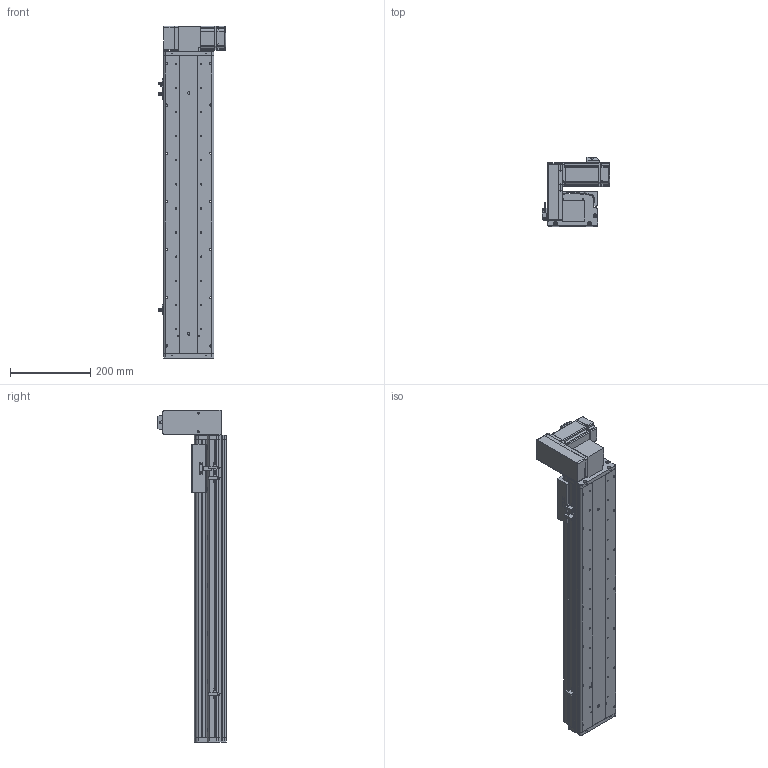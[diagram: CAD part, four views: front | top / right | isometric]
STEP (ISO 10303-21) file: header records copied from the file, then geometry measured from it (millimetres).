
FILE_DESCRIPTION (( 'STEP AP214' ), '1' );
FILE_NAME ('KSD125B-S550-MRU-CM.STEP', '2017-10-21T07:28:36', ( '微软用户' ), ( '微软中国' ), 'SwSTEP 2.0', 'SolidWorks 2014', '' );
FILE_SCHEMA (( 'AUTOMOTIVE_DESIGN' ));
Length unit declared in the file: millimetre
Products named in the file (17): 6904ZZ粣創_PreviewCfg; 100宽马达安装板同步带右; 前端板-125宽模组同步带; 125模组同步带-尾端板1; KSD125模组同步带-滑动座1; KSD125B-S550-MRU-CM; 悵誘欶奻狟殏; HTPA30S3M150_A_H6_a萇儂蚚; 100宽马达安装板连板上下折丝杆同步带; MHMD042G1CA_2_03; KSD125模组550行程同步带-防尘盖; 125模组550行程同步带-底板; KSD125模组同步带-防撞垫2; 覜茼え68遵圉猾敕; U倰嫖萇假蚾璃; U倰嫖萇EEㄜSX672; KSD125模组同步带-防撞垫1
Assembly tree (20 placements, depth 2):
  KSD125B-S550-MRU-CM
    KSD125模组同步带-滑动座1
    125模组同步带-尾端板1
    前端板-125宽模组同步带
    100宽马达安装板同步带右
    6904ZZ粣創_PreviewCfg
    KSD125模组同步带-防撞垫1
    U倰嫖萇EEㄜSX672  x3
    U倰嫖萇假蚾璃  x3
    覜茼え68遵圉猾敕
    KSD125模组同步带-防撞垫2
    125模组550行程同步带-底板
    KSD125模组550行程同步带-防尘盖
    MHMD042G1CA_2_03
    100宽马达安装板连板上下折丝杆同步带
    HTPA30S3M150_A_H6_a萇儂蚚
    悵誘欶奻狟殏
Bounding box: 168.7 x 170.5 x 827 mm (x, y, z)
Volume: 2718486.6 mm3; surface area: 942724.4 mm2
Topology: 19 solids, 22 shells, 2064 faces, 6214 edges, 4115 vertices
Faces by surface type: cylinder 1126, plane 717, cone 93, torus 68, sphere 38, bspline 22
Entity records: 75597 total; most frequent: CARTESIAN_POINT 16478, DIRECTION 11054, ORIENTED_EDGE 10720, EDGE_CURVE 5438, AXIS2_PLACEMENT_3D 4261, VERTEX_POINT 3631, LINE 2532, VECTOR 2532
